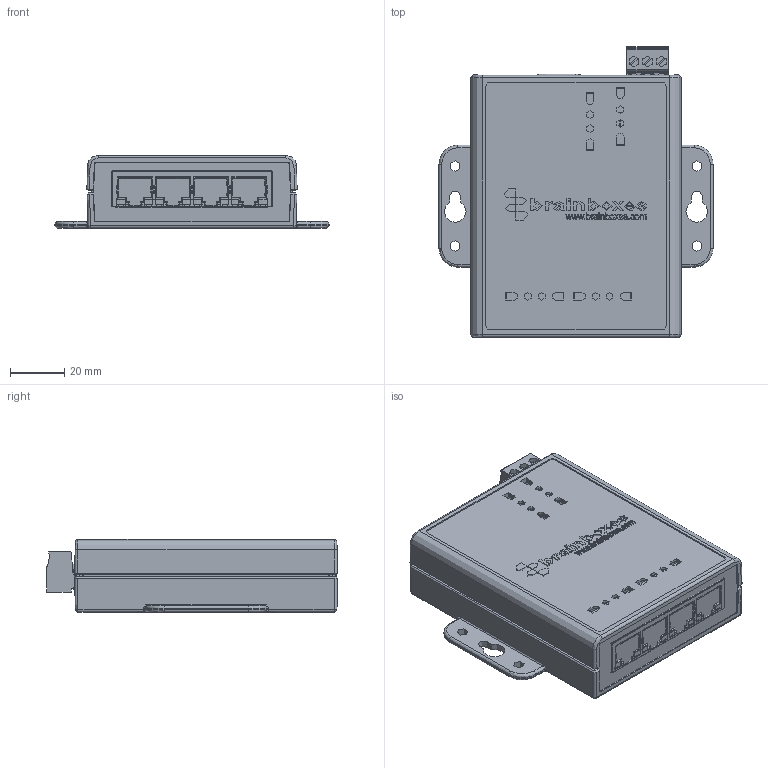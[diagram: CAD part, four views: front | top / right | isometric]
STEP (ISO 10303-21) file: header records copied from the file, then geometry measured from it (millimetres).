
FILE_DESCRIPTION(('STEP AP214'),'1');
FILE_NAME('SW-015 Cased PCB 3D Step.step','2020-12-21T10:55:28',(' '),(' '),'Spatial InterOp 3D','XD3DPlugin XRACreate',' ');
FILE_SCHEMA(('automotive_design'));
Length unit declared in the file: millimetre
Products named in the file (43): Submodel-Input_S\SMDLEDRA.xtd; SMDLEDRA; Submodel-55SMDLEDRAGREEN_part_simplified_SMDLEDRA; DesignRootModel; Submodel-Input_S\82HEA5MMTBX3.xtd; 82HEA5MMTBX3; Submodel-82HEA5MMTBX3_part_simplified_TB_5MM_3; Submodel-Input_S\SRR5028.xtd; SRR5028; Submodel-6610UH1A5_part_simplified_SRR5028; Submodel-Input_S\SMC.xtd; SMC; Submodel-55TZ1K5SMC36V_part_simplified_SMC; Submodel-Input_S\00MAGJACK1X4GIG.xtd; 00MAGJACK1X4GIG; Submodel-00MAGJACK1X4GIG_part_simplified_MAGJACK1X4GA; Submodel-Input_S\00MAGJACK1X1GIG.xtd; 00MAGJACK1X1GIG; Submodel-00MAGJACK1X1GIG_part_simplified_MAGJACK1X1GAA; Submodel-Input_S\SMD_ELEC_D.xtd; SMD_ELEC_D; Submodel-7547UF50V_part_simplified_SMD_ELEC_D; Submodel-Input_S\6610UH5A5.xtd; 6610UH5A5; Submodel-6610UH5A5_part_simplified_SRR1260; uid__9223372036854962285; Submodel-AssyDefn_23; BrainboxesLogo.step; Submodel-AssyDefn_22; CamdenEndPanel.sat; Submodel-AssyDefn_21; 82PLUG5MMTBX3.sat; Submodel-AssyDefn_20; 00ESUSCASELID.sat; Submodel-AssyDefn_19; 00ESUSCASEBASE.sat; Submodel-noModelForPart_DATUM_2441444698; placementOutline; Submodel-DATUM_2441444698_part_DATUM; Submodel-noModelForPart_MOUNTINGHOLE_2132796670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
Assembly tree (49 placements, depth 5):
  SW-015 Cased PCB 3D Step
    DesignRootModel
      Submodel-55SMDLEDRAGREEN_part_simplified_SMDLEDRA  x2
        Submodel-Input_S\SMDLEDRA.xtd
          SMDLEDRA
      Submodel-82HEA5MMTBX3_part_simplified_TB_5MM_3
        Submodel-Input_S\82HEA5MMTBX3.xtd
          82HEA5MMTBX3
      Submodel-6610UH1A5_part_simplified_SRR5028
        Submodel-Input_S\SRR5028.xtd
          SRR5028
      Submodel-55TZ1K5SMC36V_part_simplified_SMC  x4
        Submodel-Input_S\SMC.xtd
          SMC
      Submodel-00MAGJACK1X4GIG_part_simplified_MAGJACK1X4GA
        Submodel-Input_S\00MAGJACK1X4GIG.xtd
          00MAGJACK1X4GIG
      Submodel-00MAGJACK1X1GIG_part_simplified_MAGJACK1X1GAA
        Submodel-Input_S\00MAGJACK1X1GIG.xtd
          00MAGJACK1X1GIG
      Submodel-7547UF50V_part_simplified_SMD_ELEC_D
        Submodel-Input_S\SMD_ELEC_D.xtd
          SMD_ELEC_D
      Submodel-6610UH5A5_part_simplified_SRR1260
        Submodel-Input_S\6610UH5A5.xtd
          6610UH5A5
      uid__9223372036854962285
      Submodel-AssyDefn_23  x2
        BrainboxesLogo.step
      Submodel-AssyDefn_22  x2
        CamdenEndPanel.sat
      Submodel-AssyDefn_21
        82PLUG5MMTBX3.sat
      Submodel-AssyDefn_20
        00ESUSCASELID.sat
      Submodel-AssyDefn_19
        00ESUSCASEBASE.sat
      Submodel-DATUM_2441444698_part_DATUM
        Submodel-noModelForPart_DATUM_2441444698
          placementOutline
      Submodel-MOUNTINGHOLE_2132796670_part_MOUNTINGHOLE  x2
        Submodel-noModelForPart_MOUNTINGHOLE_2132796670
          placementOutline
Bounding box: 101 x 107.22 x 27.1 mm (x, y, z)
Volume: 77167.1 mm3; surface area: 99557.3 mm2
Topology: 103 solids, 123 shells, 9453 faces, 27201 edges, 17646 vertices
Faces by surface type: plane 7651, cylinder 1056, bspline 642, torus 40, cone 36, sphere 28
Full cylindrical faces by diameter (mm): 3.81 x1
Entity records: 355720 total; most frequent: CARTESIAN_POINT 58696, ORIENTED_EDGE 49776, DIRECTION 43566, EDGE_CURVE 24888, LINE 21802, VECTOR 21802, VERTEX_POINT 16134, AXIS2_PLACEMENT_3D 10882
